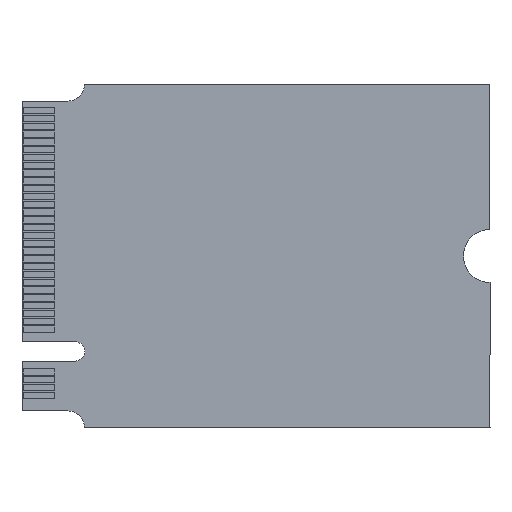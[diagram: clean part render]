
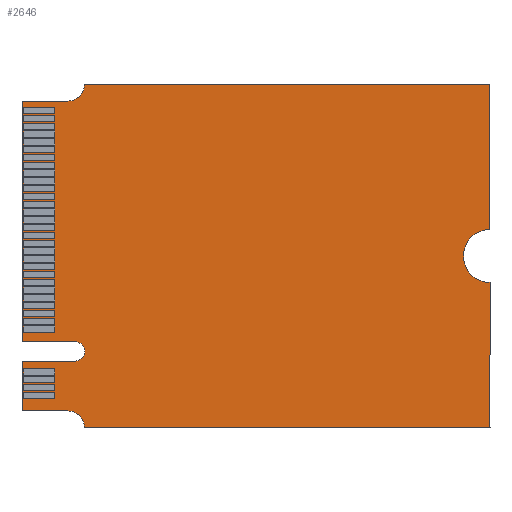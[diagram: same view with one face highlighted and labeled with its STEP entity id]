
A CAD part, front view. The second image highlights one B-rep face of the part: STEP entity #2646.
In plain terms, the highlighted planar face has unit normal (0, -1, 0).
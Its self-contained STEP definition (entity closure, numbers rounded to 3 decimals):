
#14 = EDGE_CURVE ( 'NONE', #3257, #3223, #6343, .T. ) ;
#29 = DIRECTION ( 'NONE',  ( -1., 0., 0. ) ) ;
#177 = CARTESIAN_POINT ( 'NONE',  ( -11.6, 0., -5.495 ) ) ;
#221 = CARTESIAN_POINT ( 'NONE',  ( -11.6, 0., -6.735 ) ) ;
#350 = VERTEX_POINT ( 'NONE', #2148 ) ;
#368 = EDGE_CURVE ( 'NONE', #2653, #350, #5612, .T. ) ;
#381 = CARTESIAN_POINT ( 'NONE',  ( -15., 0., -6.735 ) ) ;
#459 = AXIS2_PLACEMENT_3D ( 'NONE', #4720, #7384, #658 ) ;
#636 = DIRECTION ( 'NONE',  ( 1., 0., 0. ) ) ;
#658 = DIRECTION ( 'NONE',  ( 0., 0., 1. ) ) ;
#698 = VECTOR ( 'NONE', #6509, 1000. ) ;
#736 = VERTEX_POINT ( 'NONE', #1565 ) ;
#821 = EDGE_CURVE ( 'NONE', #9468, #8188, #2463, .T. ) ;
#985 = DIRECTION ( 'NONE',  ( 0., 0., -1. ) ) ;
#1015 = ORIENTED_EDGE ( 'NONE', *, *, #7012, .F. ) ;
#1479 = CARTESIAN_POINT ( 'NONE',  ( -15., 0., -9.935 ) ) ;
#1565 = CARTESIAN_POINT ( 'NONE',  ( -11., 0., -11. ) ) ;
#1691 = DIRECTION ( 'NONE',  ( 0., 0., 1. ) ) ;
#1836 = DIRECTION ( 'NONE',  ( 0., 0., 1. ) ) ;
#1850 = AXIS2_PLACEMENT_3D ( 'NONE', #5424, #6257, #3415 ) ;
#2020 = LINE ( 'NONE', #5369, #6765 ) ;
#2127 = DIRECTION ( 'NONE',  ( 0., 0., -1. ) ) ;
#2148 = CARTESIAN_POINT ( 'NONE',  ( -15., 0., -5.495 ) ) ;
#2240 = DIRECTION ( 'NONE',  ( 1., 0., 0. ) ) ;
#2362 = CARTESIAN_POINT ( 'NONE',  ( -15., 0., -6.735 ) ) ;
#2432 = CARTESIAN_POINT ( 'NONE',  ( -15., 0., 9.935 ) ) ;
#2463 = LINE ( 'NONE', #5817, #8448 ) ;
#2588 = EDGE_CURVE ( 'NONE', #10432, #3871, #3489, .T. ) ;
#2646 = ADVANCED_FACE ( 'NONE', ( #6023 ), #5291, .F. ) ;
#2653 = VERTEX_POINT ( 'NONE', #177 ) ;
#2669 = ORIENTED_EDGE ( 'NONE', *, *, #821, .F. ) ;
#2986 = VERTEX_POINT ( 'NONE', #4345 ) ;
#3223 = VERTEX_POINT ( 'NONE', #5444 ) ;
#3257 = VERTEX_POINT ( 'NONE', #8033 ) ;
#3415 = DIRECTION ( 'NONE',  ( 0., 0., 1. ) ) ;
#3420 = ORIENTED_EDGE ( 'NONE', *, *, #7870, .F. ) ;
#3425 = CIRCLE ( 'NONE', #1850, 1.7 ) ;
#3441 = VECTOR ( 'NONE', #7049, 1000. ) ;
#3489 = LINE ( 'NONE', #5021, #5304 ) ;
#3621 = CARTESIAN_POINT ( 'NONE',  ( -12.065, 0., 11. ) ) ;
#3638 = DIRECTION ( 'NONE',  ( 0., 1., 0. ) ) ;
#3712 = EDGE_CURVE ( 'NONE', #736, #9468, #9573, .T. ) ;
#3871 = VERTEX_POINT ( 'NONE', #4321 ) ;
#3950 = CARTESIAN_POINT ( 'NONE',  ( -15., 0., -5.495 ) ) ;
#3985 = AXIS2_PLACEMENT_3D ( 'NONE', #3621, #6882, #985 ) ;
#4159 = DIRECTION ( 'NONE',  ( 0., -1., 0. ) ) ;
#4213 = ORIENTED_EDGE ( 'NONE', *, *, #4549, .F. ) ;
#4255 = AXIS2_PLACEMENT_3D ( 'NONE', #9393, #3638, #1836 ) ;
#4321 = CARTESIAN_POINT ( 'NONE',  ( -12.065, 0., 9.935 ) ) ;
#4345 = CARTESIAN_POINT ( 'NONE',  ( 15., 0., -1.7 ) ) ;
#4438 = EDGE_CURVE ( 'NONE', #3223, #2986, #3425, .T. ) ;
#4533 = CARTESIAN_POINT ( 'NONE',  ( -15., 0., 0. ) ) ;
#4537 = ORIENTED_EDGE ( 'NONE', *, *, #4650, .F. ) ;
#4549 = EDGE_CURVE ( 'NONE', #8621, #7059, #2020, .T. ) ;
#4650 = EDGE_CURVE ( 'NONE', #2986, #9567, #10787, .T. ) ;
#4720 = CARTESIAN_POINT ( 'NONE',  ( -11.6, 0., -6.115 ) ) ;
#4845 = VECTOR ( 'NONE', #6252, 1000. ) ;
#4877 = ORIENTED_EDGE ( 'NONE', *, *, #2588, .F. ) ;
#5021 = CARTESIAN_POINT ( 'NONE',  ( -15., 0., 9.935 ) ) ;
#5240 = ORIENTED_EDGE ( 'NONE', *, *, #14, .F. ) ;
#5291 = PLANE ( 'NONE',  #4255 ) ;
#5304 = VECTOR ( 'NONE', #2240, 1000. ) ;
#5369 = CARTESIAN_POINT ( 'NONE',  ( -11.6, 0., -6.735 ) ) ;
#5424 = CARTESIAN_POINT ( 'NONE',  ( 15., 0., 0. ) ) ;
#5444 = CARTESIAN_POINT ( 'NONE',  ( 15., 0., 1.7 ) ) ;
#5571 = CIRCLE ( 'NONE', #3985, 1.065 ) ;
#5612 = LINE ( 'NONE', #3950, #8082 ) ;
#5643 = DIRECTION ( 'NONE',  ( 1., 0., 0. ) ) ;
#5721 = VECTOR ( 'NONE', #2127, 1000. ) ;
#5763 = CARTESIAN_POINT ( 'NONE',  ( 15., 0., 11. ) ) ;
#5817 = CARTESIAN_POINT ( 'NONE',  ( -15., 0., -9.935 ) ) ;
#5868 = ORIENTED_EDGE ( 'NONE', *, *, #6386, .F. ) ;
#5912 = ORIENTED_EDGE ( 'NONE', *, *, #3712, .F. ) ;
#6023 = FACE_OUTER_BOUND ( 'NONE', #6481, .T. ) ;
#6193 = VERTEX_POINT ( 'NONE', #8686 ) ;
#6229 = ORIENTED_EDGE ( 'NONE', *, *, #8236, .F. ) ;
#6252 = DIRECTION ( 'NONE',  ( 0., 0., 1. ) ) ;
#6257 = DIRECTION ( 'NONE',  ( 0., -1., 0. ) ) ;
#6343 = LINE ( 'NONE', #8107, #698 ) ;
#6386 = EDGE_CURVE ( 'NONE', #6193, #3257, #6524, .T. ) ;
#6480 = CARTESIAN_POINT ( 'NONE',  ( -12.065, 0., -11. ) ) ;
#6481 = EDGE_LOOP ( 'NONE', ( #4877, #3420, #10531, #6229, #4213, #1015, #2669, #5912, #6980, #4537, #9924, #5240, #5868, #10266 ) ) ;
#6509 = DIRECTION ( 'NONE',  ( 0., 0., -1. ) ) ;
#6524 = LINE ( 'NONE', #5763, #8702 ) ;
#6696 = LINE ( 'NONE', #7581, #8219 ) ;
#6765 = VECTOR ( 'NONE', #636, 1000. ) ;
#6882 = DIRECTION ( 'NONE',  ( 0., -1., 0. ) ) ;
#6967 = CIRCLE ( 'NONE', #459, 0.62 ) ;
#6980 = ORIENTED_EDGE ( 'NONE', *, *, #8919, .F. ) ;
#7012 = EDGE_CURVE ( 'NONE', #8188, #8621, #7827, .T. ) ;
#7049 = DIRECTION ( 'NONE',  ( 0., 0., 1. ) ) ;
#7059 = VERTEX_POINT ( 'NONE', #221 ) ;
#7212 = DIRECTION ( 'NONE',  ( -1., 0., 0. ) ) ;
#7281 = AXIS2_PLACEMENT_3D ( 'NONE', #6480, #4159, #1691 ) ;
#7384 = DIRECTION ( 'NONE',  ( 0., -1., 0. ) ) ;
#7581 = CARTESIAN_POINT ( 'NONE',  ( -11., 0., -11. ) ) ;
#7827 = LINE ( 'NONE', #381, #3441 ) ;
#7870 = EDGE_CURVE ( 'NONE', #350, #10432, #7957, .T. ) ;
#7957 = LINE ( 'NONE', #4533, #4845 ) ;
#8033 = CARTESIAN_POINT ( 'NONE',  ( 15., 0., 11. ) ) ;
#8082 = VECTOR ( 'NONE', #7212, 1000. ) ;
#8107 = CARTESIAN_POINT ( 'NONE',  ( 15., 0., 11. ) ) ;
#8188 = VERTEX_POINT ( 'NONE', #1479 ) ;
#8219 = VECTOR ( 'NONE', #29, 1000. ) ;
#8236 = EDGE_CURVE ( 'NONE', #7059, #2653, #6967, .T. ) ;
#8448 = VECTOR ( 'NONE', #9185, 1000. ) ;
#8621 = VERTEX_POINT ( 'NONE', #2362 ) ;
#8686 = CARTESIAN_POINT ( 'NONE',  ( -11., 0., 11. ) ) ;
#8702 = VECTOR ( 'NONE', #5643, 1000. ) ;
#8919 = EDGE_CURVE ( 'NONE', #9567, #736, #6696, .T. ) ;
#9142 = CARTESIAN_POINT ( 'NONE',  ( 15., 0., -11. ) ) ;
#9185 = DIRECTION ( 'NONE',  ( -1., 0., 0. ) ) ;
#9264 = EDGE_CURVE ( 'NONE', #3871, #6193, #5571, .T. ) ;
#9393 = CARTESIAN_POINT ( 'NONE',  ( -11.6, 0., -6.115 ) ) ;
#9468 = VERTEX_POINT ( 'NONE', #10622 ) ;
#9567 = VERTEX_POINT ( 'NONE', #9142 ) ;
#9573 = CIRCLE ( 'NONE', #7281, 1.065 ) ;
#9679 = CARTESIAN_POINT ( 'NONE',  ( 15., 0., -11. ) ) ;
#9924 = ORIENTED_EDGE ( 'NONE', *, *, #4438, .F. ) ;
#10266 = ORIENTED_EDGE ( 'NONE', *, *, #9264, .F. ) ;
#10432 = VERTEX_POINT ( 'NONE', #2432 ) ;
#10531 = ORIENTED_EDGE ( 'NONE', *, *, #368, .F. ) ;
#10622 = CARTESIAN_POINT ( 'NONE',  ( -12.065, 0., -9.935 ) ) ;
#10787 = LINE ( 'NONE', #9679, #5721 ) ;
